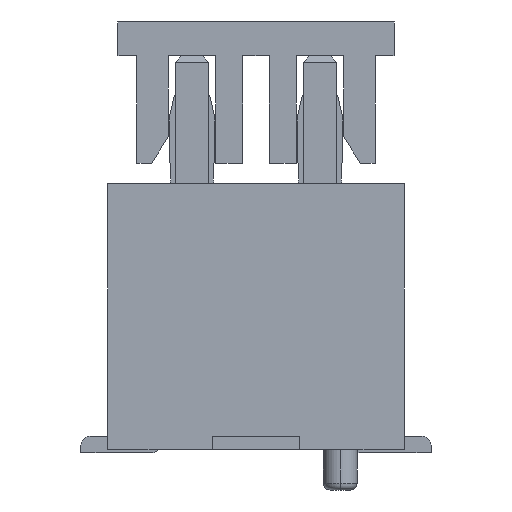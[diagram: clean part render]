
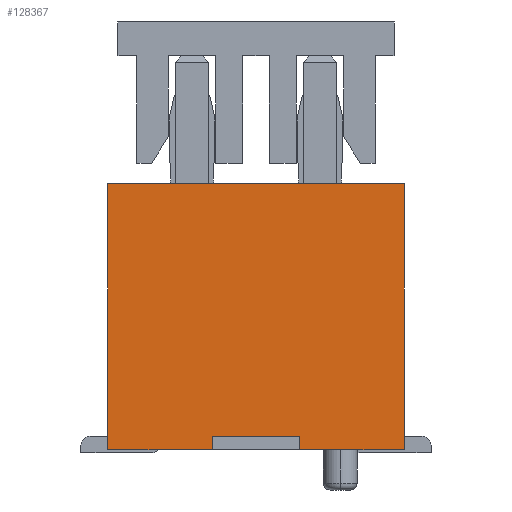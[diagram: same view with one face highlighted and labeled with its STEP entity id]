
A CAD part, left-side view. The second image highlights one B-rep face of the part: STEP entity #128367.
In plain terms, the highlighted planar face has unit normal (-1, 0, 0).
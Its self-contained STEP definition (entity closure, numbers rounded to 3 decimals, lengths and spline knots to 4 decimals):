
#203 = CARTESIAN_POINT ( 'NONE',  ( -4.95, 2.2, 3.95 ) ) ;
#864 = DIRECTION ( 'NONE',  ( 0., 1., 0. ) ) ;
#5938 = CARTESIAN_POINT ( 'NONE',  ( -4.95, 0.65, 0. ) ) ;
#8121 = CARTESIAN_POINT ( 'NONE',  ( -4.95, 2.1, 0. ) ) ;
#8906 = LINE ( 'NONE', #8121, #130354 ) ;
#10088 = EDGE_CURVE ( 'NONE', #106726, #141940, #35708, .T. ) ;
#10510 = VERTEX_POINT ( 'NONE', #203 ) ;
#13603 = DIRECTION ( 'NONE',  ( 0., -1., 0. ) ) ;
#17498 = CARTESIAN_POINT ( 'NONE',  ( -4.95, -1.325, 0. ) ) ;
#19567 = DIRECTION ( 'NONE',  ( 0., 0., -1. ) ) ;
#20750 = EDGE_CURVE ( 'NONE', #10510, #82838, #70652, .T. ) ;
#25162 = DIRECTION ( 'NONE',  ( 1., 0., 0. ) ) ;
#29530 = EDGE_LOOP ( 'NONE', ( #58324, #75638, #98408, #156483, #34797, #133592, #113383, #102744 ) ) ;
#30060 = CARTESIAN_POINT ( 'NONE',  ( -4.95, -0.65, 0.1 ) ) ;
#32396 = DIRECTION ( 'NONE',  ( 0., 0., 1. ) ) ;
#34797 = ORIENTED_EDGE ( 'NONE', *, *, #94977, .F. ) ;
#35708 = LINE ( 'NONE', #81628, #152462 ) ;
#37827 = CARTESIAN_POINT ( 'NONE',  ( -4.95, 0., 0. ) ) ;
#38729 = EDGE_CURVE ( 'NONE', #48785, #106726, #128925, .T. ) ;
#39394 = VERTEX_POINT ( 'NONE', #147639 ) ;
#42970 = DIRECTION ( 'NONE',  ( 0., 1., 0. ) ) ;
#48785 = VERTEX_POINT ( 'NONE', #146364 ) ;
#51843 = CARTESIAN_POINT ( 'NONE',  ( -4.95, 2.2, 1.975 ) ) ;
#52935 = AXIS2_PLACEMENT_3D ( 'NONE', #37827, #25162, #97956 ) ;
#53637 = LINE ( 'NONE', #127177, #56609 ) ;
#56609 = VECTOR ( 'NONE', #19567, 1000. ) ;
#58324 = ORIENTED_EDGE ( 'NONE', *, *, #59166, .F. ) ;
#59166 = EDGE_CURVE ( 'NONE', #135538, #39394, #8906, .T. ) ;
#59556 = CARTESIAN_POINT ( 'NONE',  ( -4.95, 0., 3.95 ) ) ;
#61397 = VECTOR ( 'NONE', #76828, 1000. ) ;
#62568 = VERTEX_POINT ( 'NONE', #139845 ) ;
#66747 = EDGE_CURVE ( 'NONE', #135538, #141940, #136951, .T. ) ;
#70652 = LINE ( 'NONE', #59556, #155778 ) ;
#75638 = ORIENTED_EDGE ( 'NONE', *, *, #66747, .T. ) ;
#76828 = DIRECTION ( 'NONE',  ( 0., 0., 1. ) ) ;
#77070 = VECTOR ( 'NONE', #32396, 1000. ) ;
#77146 = LINE ( 'NONE', #51843, #126372 ) ;
#81628 = CARTESIAN_POINT ( 'NONE',  ( -4.95, 0., 0.2 ) ) ;
#82838 = VERTEX_POINT ( 'NONE', #129538 ) ;
#84529 = FACE_OUTER_BOUND ( 'NONE', #29530, .T. ) ;
#86271 = CARTESIAN_POINT ( 'NONE',  ( -4.95, 0.65, 0.2 ) ) ;
#87156 = CARTESIAN_POINT ( 'NONE',  ( -4.95, 0.65, 0.1 ) ) ;
#91382 = EDGE_CURVE ( 'NONE', #82838, #62568, #53637, .T. ) ;
#94977 = EDGE_CURVE ( 'NONE', #62568, #48785, #149647, .T. ) ;
#97000 = EDGE_CURVE ( 'NONE', #39394, #10510, #77146, .T. ) ;
#97956 = DIRECTION ( 'NONE',  ( 0., 1., 0. ) ) ;
#98408 = ORIENTED_EDGE ( 'NONE', *, *, #10088, .F. ) ;
#102744 = ORIENTED_EDGE ( 'NONE', *, *, #97000, .F. ) ;
#106726 = VERTEX_POINT ( 'NONE', #143533 ) ;
#109643 = DIRECTION ( 'NONE',  ( 0., 0., 1. ) ) ;
#113383 = ORIENTED_EDGE ( 'NONE', *, *, #20750, .F. ) ;
#118374 = VECTOR ( 'NONE', #150424, 1000. ) ;
#126372 = VECTOR ( 'NONE', #109643, 1000. ) ;
#127177 = CARTESIAN_POINT ( 'NONE',  ( -4.95, -2.2, 1.975 ) ) ;
#128367 = ADVANCED_FACE ( 'NONE', ( #84529 ), #132002, .F. ) ;
#128925 = LINE ( 'NONE', #30060, #77070 ) ;
#129538 = CARTESIAN_POINT ( 'NONE',  ( -4.95, -2.2, 3.95 ) ) ;
#130354 = VECTOR ( 'NONE', #42970, 1000. ) ;
#132002 = PLANE ( 'NONE',  #52935 ) ;
#133592 = ORIENTED_EDGE ( 'NONE', *, *, #91382, .F. ) ;
#135538 = VERTEX_POINT ( 'NONE', #5938 ) ;
#136951 = LINE ( 'NONE', #87156, #61397 ) ;
#139845 = CARTESIAN_POINT ( 'NONE',  ( -4.95, -2.2, 0. ) ) ;
#141940 = VERTEX_POINT ( 'NONE', #86271 ) ;
#143533 = CARTESIAN_POINT ( 'NONE',  ( -4.95, -0.65, 0.2 ) ) ;
#146364 = CARTESIAN_POINT ( 'NONE',  ( -4.95, -0.65, 0. ) ) ;
#147639 = CARTESIAN_POINT ( 'NONE',  ( -4.95, 2.2, 0. ) ) ;
#149647 = LINE ( 'NONE', #17498, #118374 ) ;
#150424 = DIRECTION ( 'NONE',  ( 0., 1., 0. ) ) ;
#152462 = VECTOR ( 'NONE', #864, 1000. ) ;
#155778 = VECTOR ( 'NONE', #13603, 1000. ) ;
#156483 = ORIENTED_EDGE ( 'NONE', *, *, #38729, .F. ) ;
